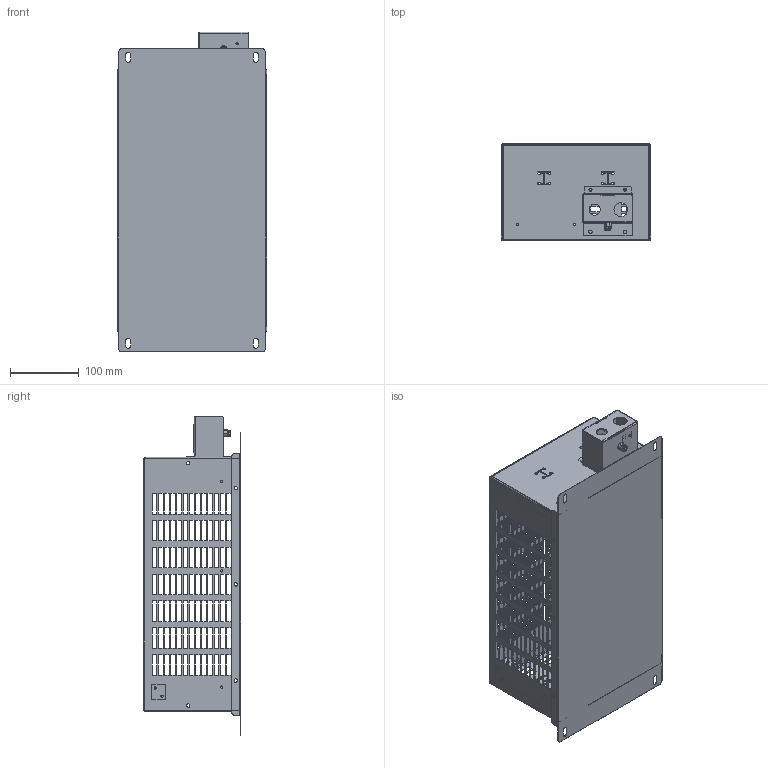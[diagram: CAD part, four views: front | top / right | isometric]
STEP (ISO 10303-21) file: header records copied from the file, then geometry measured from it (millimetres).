
FILE_DESCRIPTION(/* description */ (''),/* implementation_level */ '2;1');
FILE_NAME(/* name */ 'C:\_Vault\Dati\CATALOGO\RME\CT MARZO 2015\Assieme1-2L\Assieme2L.stp',/* time_stamp */ '2017-11-10T09:49:18+01:00',/* author */ ('Diego'),/* organization */ ('Fairfild Srl'),/* preprocessor_version */ 'ST-DEVELOPER v16.5',/* originating_system */ 'Autodesk Inventor 2017',/* authorisation */ '');
FILE_SCHEMA (('CONFIG_CONTROL_DESIGN'));
Products named in the file (1): Assieme2L
Bounding box: 216.5 x 140.9 x 464.3 mm (x, y, z)
Volume: 251765 mm3; surface area: 618611.4 mm2
Topology: 3 solids, 3 shells, 3134 faces, 8963 edges, 5968 vertices
Faces by surface type: plane 2329, bspline 640, cylinder 156, cone 8, torus 1
Full cylindrical faces by diameter (mm): 3 x3, 3.2 x12, 3.3 x2, 3.5 x1, 4.2 x3, 4.5 x3, 5 x31, 6 x1, 7.5 x1, 16 x1, 19 x1, 20 x1
Entity records: 108676 total; most frequent: CARTESIAN_POINT 26351, ORIENTED_EDGE 17792, DIRECTION 12912, EDGE_CURVE 8896, LINE 7274, VECTOR 7274, VERTEX_POINT 5964, EDGE_LOOP 4160
